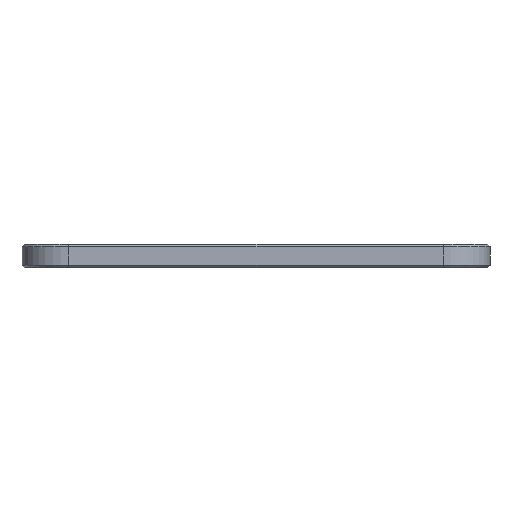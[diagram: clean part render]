
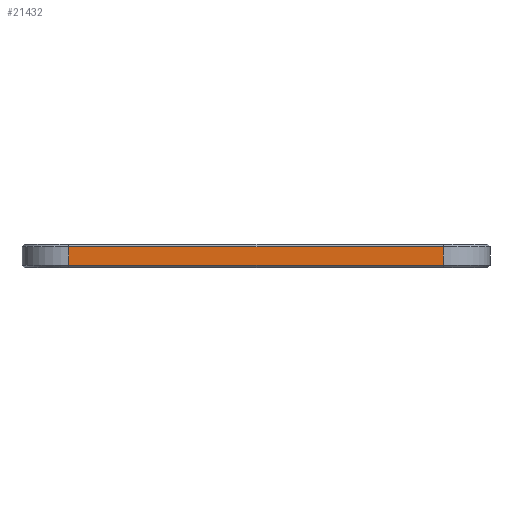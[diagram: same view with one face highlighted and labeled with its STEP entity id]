
A CAD part, left-side view. The second image highlights one B-rep face of the part: STEP entity #21432.
In plain terms, the highlighted planar face has unit normal (-1, 0, 0).
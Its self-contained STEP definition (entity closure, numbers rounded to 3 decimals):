
#5228 = EDGE_LOOP ( 'NONE', ( #11986, #52493, #38029, #19363 ) ) ;
#5982 = EDGE_CURVE ( 'NONE', #43412, #10221, #30100, .T. ) ;
#9283 = CARTESIAN_POINT ( 'NONE',  ( -50., -50., 10. ) ) ;
#10221 = VERTEX_POINT ( 'NONE', #15448 ) ;
#10682 = VECTOR ( 'NONE', #41761, 1000. ) ;
#11643 = PLANE ( 'NONE',  #42924 ) ;
#11986 = ORIENTED_EDGE ( 'NONE', *, *, #34822, .T. ) ;
#12241 = LINE ( 'NONE', #49201, #43327 ) ;
#15448 = CARTESIAN_POINT ( 'NONE',  ( -50., -50., 1. ) ) ;
#16168 = DIRECTION ( 'NONE',  ( 0., -1., 0. ) ) ;
#16231 = DIRECTION ( 'NONE',  ( -1., 0., 0. ) ) ;
#16961 = CARTESIAN_POINT ( 'NONE',  ( -50., 110., 1. ) ) ;
#18651 = LINE ( 'NONE', #24601, #36455 ) ;
#19363 = ORIENTED_EDGE ( 'NONE', *, *, #46446, .T. ) ;
#19941 = EDGE_CURVE ( 'NONE', #10221, #27402, #32277, .T. ) ;
#20356 = VERTEX_POINT ( 'NONE', #23997 ) ;
#21432 = ADVANCED_FACE ( 'NONE', ( #52292 ), #11643, .T. ) ;
#23997 = CARTESIAN_POINT ( 'NONE',  ( -50., 110., 9. ) ) ;
#24601 = CARTESIAN_POINT ( 'NONE',  ( -50., 110., 10. ) ) ;
#25076 = DIRECTION ( 'NONE',  ( 0., 1., 0. ) ) ;
#27402 = VERTEX_POINT ( 'NONE', #37184 ) ;
#30100 = LINE ( 'NONE', #40463, #51703 ) ;
#32277 = LINE ( 'NONE', #9283, #10682 ) ;
#34822 = EDGE_CURVE ( 'NONE', #20356, #43412, #18651, .T. ) ;
#36455 = VECTOR ( 'NONE', #40907, 1000. ) ;
#37184 = CARTESIAN_POINT ( 'NONE',  ( -50., -50., 9. ) ) ;
#38029 = ORIENTED_EDGE ( 'NONE', *, *, #19941, .T. ) ;
#40463 = CARTESIAN_POINT ( 'NONE',  ( -50., -70., 1. ) ) ;
#40541 = CARTESIAN_POINT ( 'NONE',  ( -50., -70., 10. ) ) ;
#40907 = DIRECTION ( 'NONE',  ( 0., 0., -1. ) ) ;
#41761 = DIRECTION ( 'NONE',  ( 0., 0., 1. ) ) ;
#42924 = AXIS2_PLACEMENT_3D ( 'NONE', #40541, #16231, #44607 ) ;
#43327 = VECTOR ( 'NONE', #25076, 1000. ) ;
#43412 = VERTEX_POINT ( 'NONE', #16961 ) ;
#44607 = DIRECTION ( 'NONE',  ( 0., 0., 1. ) ) ;
#46446 = EDGE_CURVE ( 'NONE', #27402, #20356, #12241, .T. ) ;
#49201 = CARTESIAN_POINT ( 'NONE',  ( -50., 110., 9. ) ) ;
#51703 = VECTOR ( 'NONE', #16168, 1000. ) ;
#52292 = FACE_OUTER_BOUND ( 'NONE', #5228, .T. ) ;
#52493 = ORIENTED_EDGE ( 'NONE', *, *, #5982, .T. ) ;
